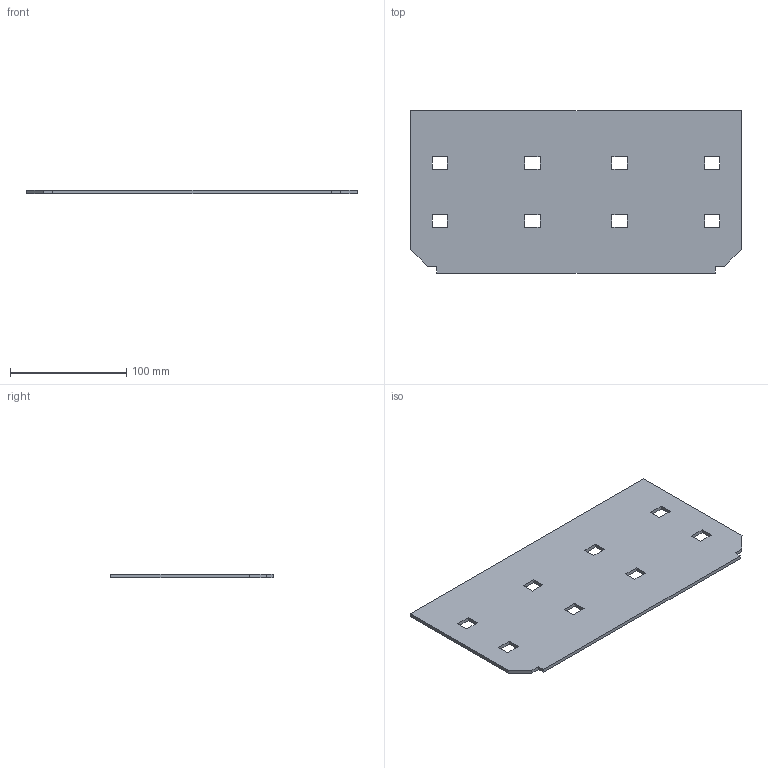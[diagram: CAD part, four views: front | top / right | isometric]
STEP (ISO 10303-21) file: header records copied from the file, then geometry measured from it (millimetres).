
FILE_DESCRIPTION (( 'STEP AP203' ), '1' );
FILE_NAME ('N20C SPLICE PLATE.STEP', '2024-09-04T23:05:05', ( '' ), ( '' ), 'SwSTEP 2.0', 'SolidWorks 2023', '' );
FILE_SCHEMA (( 'CONFIG_CONTROL_DESIGN' ));
Length unit declared in the file: millimetre
Products named in the file (1): N20C SPLICE PLATE
Bounding box: 285 x 140 x 3 mm (x, y, z)
Volume: 114827.3 mm3; surface area: 80202.5 mm2
Topology: 1 solids, 1 shells, 44 faces, 126 edges, 84 vertices
Faces by surface type: plane 44
Entity records: 1519 total; most frequent: CARTESIAN_POINT 255, ORIENTED_EDGE 252, DIRECTION 216, LINE 126, VECTOR 126, EDGE_CURVE 126, VERTEX_POINT 84, EDGE_LOOP 60
